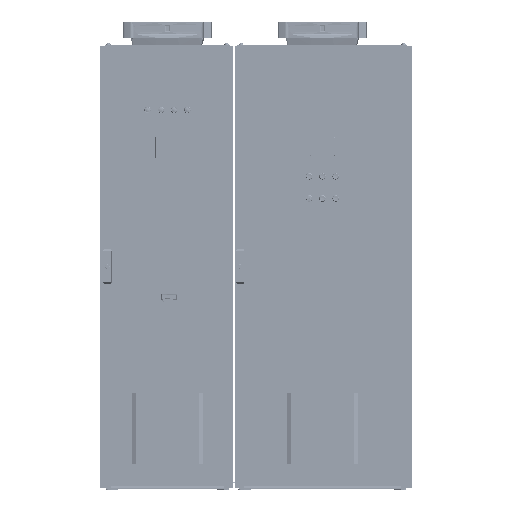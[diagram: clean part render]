
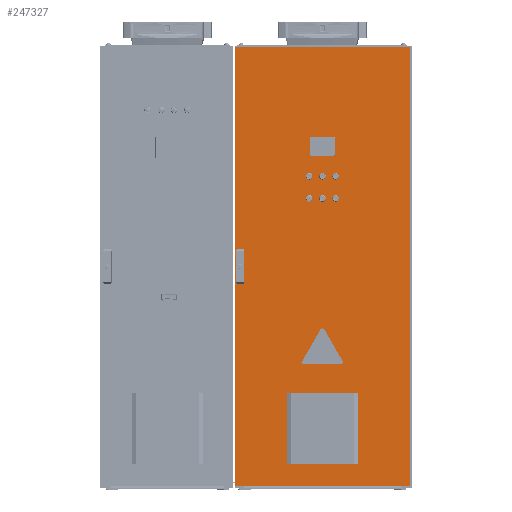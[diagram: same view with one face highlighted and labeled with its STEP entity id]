
A CAD part, front view. The second image highlights one B-rep face of the part: STEP entity #247327.
In plain terms, the highlighted planar face has unit normal (0, -1, 0) as drawn and (0, 0, 1) by its records, which use the part's own axes.
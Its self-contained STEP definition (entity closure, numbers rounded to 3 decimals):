
#246532 = VERTEX_POINT('',#246533);
#246533 = CARTESIAN_POINT('',(396.,992.25,0.));
#246539 = EDGE_CURVE('',#246540,#246532,#246542,.T.);
#246540 = VERTEX_POINT('',#246541);
#246541 = CARTESIAN_POINT('',(396.,-992.25,0.));
#246542 = LINE('',#246543,#246544);
#246543 = CARTESIAN_POINT('',(396.,-992.25,0.));
#246544 = VECTOR('',#246545,1.);
#246545 = DIRECTION('',(0.,1.,0.));
#246587 = VERTEX_POINT('',#246588);
#246588 = CARTESIAN_POINT('',(-396.,992.25,0.));
#246594 = EDGE_CURVE('',#246532,#246587,#246595,.T.);
#246595 = LINE('',#246596,#246597);
#246596 = CARTESIAN_POINT('',(396.,992.25,0.));
#246597 = VECTOR('',#246598,1.);
#246598 = DIRECTION('',(-1.,0.,0.));
#247278 = EDGE_CURVE('',#247279,#246540,#247281,.T.);
#247279 = VERTEX_POINT('',#247280);
#247280 = CARTESIAN_POINT('',(-396.,-992.25,0.));
#247281 = LINE('',#247282,#247283);
#247282 = CARTESIAN_POINT('',(-396.,-992.25,0.));
#247283 = VECTOR('',#247284,1.);
#247284 = DIRECTION('',(1.,0.,0.));
#247309 = EDGE_CURVE('',#246587,#247279,#247310,.T.);
#247310 = LINE('',#247311,#247312);
#247311 = CARTESIAN_POINT('',(-396.,992.25,0.));
#247312 = VECTOR('',#247313,1.);
#247313 = DIRECTION('',(0.,-1.,0.));
#247327 = ADVANCED_FACE('',(#247328),#247334,.T.);
#247328 = FACE_BOUND('',#247329,.T.);
#247329 = EDGE_LOOP('',(#247330,#247331,#247332,#247333));
#247330 = ORIENTED_EDGE('',*,*,#247309,.T.);
#247331 = ORIENTED_EDGE('',*,*,#247278,.T.);
#247332 = ORIENTED_EDGE('',*,*,#246539,.T.);
#247333 = ORIENTED_EDGE('',*,*,#246594,.T.);
#247334 = PLANE('',#247335);
#247335 = AXIS2_PLACEMENT_3D('',#247336,#247337,#247338);
#247336 = CARTESIAN_POINT('',(0.,0.,0.));
#247337 = DIRECTION('',(0.,0.,1.));
#247338 = DIRECTION('',(1.,0.,-0.));
